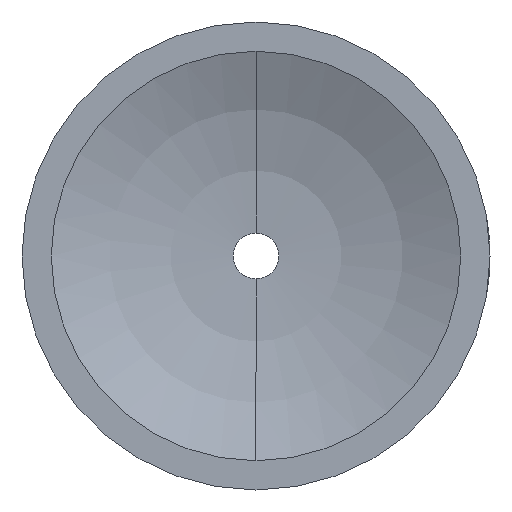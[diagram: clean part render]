
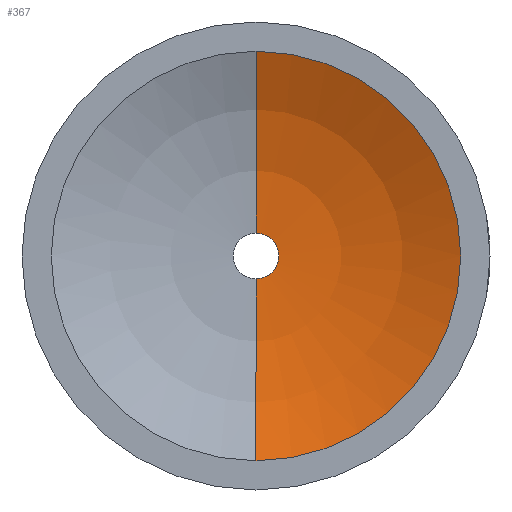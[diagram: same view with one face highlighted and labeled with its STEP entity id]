
A CAD part, left-side view. The second image highlights one B-rep face of the part: STEP entity #367.
In plain terms, the highlighted toroidal (fillet/blend) face has major radius 3.288 mm and minor radius 40 mm.
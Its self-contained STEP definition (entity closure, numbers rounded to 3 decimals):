
#8 = EDGE_LOOP ( 'NONE', ( #417, #466, #59, #400 ) ) ;
#11 = DIRECTION ( 'NONE',  ( 0., 0., 1. ) ) ;
#13 = CIRCLE ( 'NONE', #404, 2.344 ) ;
#34 = VERTEX_POINT ( 'NONE', #391 ) ;
#40 = DIRECTION ( 'NONE',  ( 0., 0., 1. ) ) ;
#59 = ORIENTED_EDGE ( 'NONE', *, *, #71, .T. ) ;
#71 = EDGE_CURVE ( 'NONE', #34, #446, #283, .T. ) ;
#97 = EDGE_CURVE ( 'NONE', #426, #446, #321, .T. ) ;
#113 = TOROIDAL_SURFACE ( 'NONE', #265, 3.288, 40. ) ;
#130 = DIRECTION ( 'NONE',  ( 0., 0., -1. ) ) ;
#151 = DIRECTION ( 'NONE',  ( -1., 0., 0. ) ) ;
#212 = CARTESIAN_POINT ( 'NONE',  ( -35.865, 0., 3.288 ) ) ;
#214 = CARTESIAN_POINT ( 'NONE',  ( 4.124, 0., -2.344 ) ) ;
#216 = CARTESIAN_POINT ( 'NONE',  ( 4.124, 0., 2.344 ) ) ;
#220 = AXIS2_PLACEMENT_3D ( 'NONE', #212, #302, #130 ) ;
#254 = FACE_OUTER_BOUND ( 'NONE', #8, .T. ) ;
#265 = AXIS2_PLACEMENT_3D ( 'NONE', #548, #151, #40 ) ;
#283 = CIRCLE ( 'NONE', #420, 21. ) ;
#302 = DIRECTION ( 'NONE',  ( 0., -1., 0. ) ) ;
#321 = CIRCLE ( 'NONE', #220, 40. ) ;
#367 = ADVANCED_FACE ( 'NONE', ( #254 ), #113, .F. ) ;
#377 = AXIS2_PLACEMENT_3D ( 'NONE', #457, #424, #11 ) ;
#391 = CARTESIAN_POINT ( 'NONE',  ( 0., 0., -21. ) ) ;
#400 = ORIENTED_EDGE ( 'NONE', *, *, #97, .F. ) ;
#404 = AXIS2_PLACEMENT_3D ( 'NONE', #550, #535, #532 ) ;
#417 = ORIENTED_EDGE ( 'NONE', *, *, #428, .T. ) ;
#420 = AXIS2_PLACEMENT_3D ( 'NONE', #496, #504, #509 ) ;
#424 = DIRECTION ( 'NONE',  ( 0., 1., 0. ) ) ;
#426 = VERTEX_POINT ( 'NONE', #216 ) ;
#428 = EDGE_CURVE ( 'NONE', #426, #429, #13, .T. ) ;
#429 = VERTEX_POINT ( 'NONE', #214 ) ;
#446 = VERTEX_POINT ( 'NONE', #518 ) ;
#454 = EDGE_CURVE ( 'NONE', #429, #34, #524, .T. ) ;
#457 = CARTESIAN_POINT ( 'NONE',  ( -35.865, 0., -3.288 ) ) ;
#466 = ORIENTED_EDGE ( 'NONE', *, *, #454, .T. ) ;
#496 = CARTESIAN_POINT ( 'NONE',  ( 0., 0., 0. ) ) ;
#504 = DIRECTION ( 'NONE',  ( -1., 0., 0. ) ) ;
#509 = DIRECTION ( 'NONE',  ( 0., 0., 1. ) ) ;
#518 = CARTESIAN_POINT ( 'NONE',  ( 0., 0., 21. ) ) ;
#524 = CIRCLE ( 'NONE', #377, 40. ) ;
#532 = DIRECTION ( 'NONE',  ( 0., 0., 1. ) ) ;
#535 = DIRECTION ( 'NONE',  ( 1., 0., 0. ) ) ;
#548 = CARTESIAN_POINT ( 'NONE',  ( -35.865, 0., 0. ) ) ;
#550 = CARTESIAN_POINT ( 'NONE',  ( 4.124, 0., 0. ) ) ;
